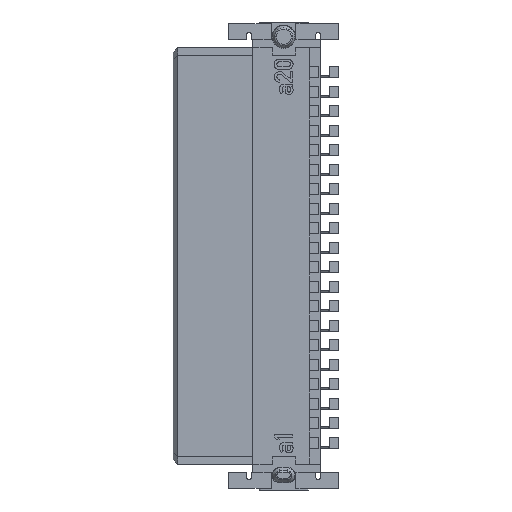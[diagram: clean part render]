
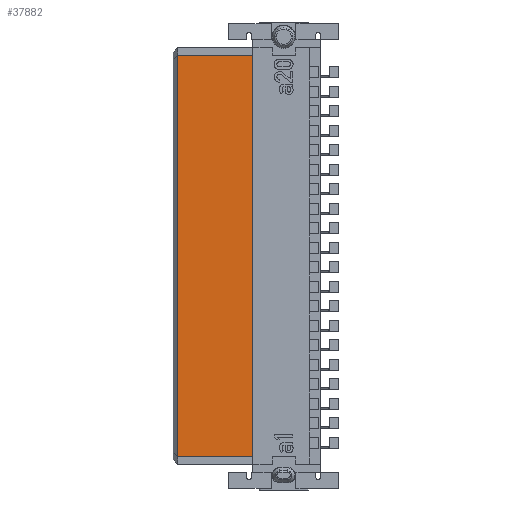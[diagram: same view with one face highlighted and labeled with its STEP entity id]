
A CAD part, front view. The second image highlights one B-rep face of the part: STEP entity #37882.
In plain terms, the highlighted planar face has unit normal (0, -1, 0).
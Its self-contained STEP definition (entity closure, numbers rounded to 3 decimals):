
#8346 = DIRECTION ( 'NONE',  ( 0., 0., 1. ) ) ;
#8401 = DIRECTION ( 'NONE',  ( 0., 1., 0. ) ) ;
#8402 = CARTESIAN_POINT ( 'NONE',  ( 5.2, -1.525, 13.075 ) ) ;
#8411 = PLANE ( 'NONE',  #8431 ) ;
#8415 = CARTESIAN_POINT ( 'NONE',  ( 5.2, -1.525, -13.075 ) ) ;
#8416 = LINE ( 'NONE', #8415, #8464 ) ;
#8428 = DIRECTION ( 'NONE',  ( -1., 0., 0. ) ) ;
#8431 = AXIS2_PLACEMENT_3D ( 'NONE', #8402, #8401, #8346 ) ;
#8464 = VECTOR ( 'NONE', #8428, 1000. ) ;
#9155 = FACE_OUTER_BOUND ( 'NONE', #38876, .T. ) ;
#9185 = VECTOR ( 'NONE', #9249, 1000. ) ;
#9186 = CARTESIAN_POINT ( 'NONE',  ( 5.2, -1.525, 13.075 ) ) ;
#9188 = LINE ( 'NONE', #9186, #9185 ) ;
#9189 = VECTOR ( 'NONE', #9190, 1000. ) ;
#9190 = DIRECTION ( 'NONE',  ( 0., 0., -1. ) ) ;
#9191 = CARTESIAN_POINT ( 'NONE',  ( 0.3, -1.525, 13.075 ) ) ;
#9192 = CARTESIAN_POINT ( 'NONE',  ( 5.2, -1.525, -13.075 ) ) ;
#9200 = LINE ( 'NONE', #9191, #9189 ) ;
#9201 = CARTESIAN_POINT ( 'NONE',  ( 0.3, -1.525, -13.075 ) ) ;
#9249 = DIRECTION ( 'NONE',  ( 0., 0., -1. ) ) ;
#9255 = CARTESIAN_POINT ( 'NONE',  ( 0.3, -1.525, 13.075 ) ) ;
#9271 = LINE ( 'NONE', #9300, #9299 ) ;
#9298 = DIRECTION ( 'NONE',  ( -1., 0., 0. ) ) ;
#9299 = VECTOR ( 'NONE', #9298, 1000. ) ;
#9300 = CARTESIAN_POINT ( 'NONE',  ( 5.2, -1.525, 13.075 ) ) ;
#9349 = CARTESIAN_POINT ( 'NONE',  ( 5.2, -1.525, 13.075 ) ) ;
#37882 = ADVANCED_FACE ( 'NONE', ( #9155 ), #8411, .F. ) ;
#37884 = ORIENTED_EDGE ( 'NONE', *, *, #37935, .T. ) ;
#37885 = EDGE_CURVE ( 'NONE', #37933, #37938, #8416, .T. ) ;
#37928 = ORIENTED_EDGE ( 'NONE', *, *, #38779, .T. ) ;
#37933 = VERTEX_POINT ( 'NONE', #9192 ) ;
#37935 = EDGE_CURVE ( 'NONE', #38786, #37938, #9200, .T. ) ;
#37938 = VERTEX_POINT ( 'NONE', #9201 ) ;
#37939 = EDGE_CURVE ( 'NONE', #39204, #37933, #9188, .T. ) ;
#37941 = ORIENTED_EDGE ( 'NONE', *, *, #37939, .F. ) ;
#38779 = EDGE_CURVE ( 'NONE', #39204, #38786, #9271, .T. ) ;
#38786 = VERTEX_POINT ( 'NONE', #9255 ) ;
#38876 = EDGE_LOOP ( 'NONE', ( #37928, #37884, #39214, #37941 ) ) ;
#39204 = VERTEX_POINT ( 'NONE', #9349 ) ;
#39214 = ORIENTED_EDGE ( 'NONE', *, *, #37885, .F. ) ;
